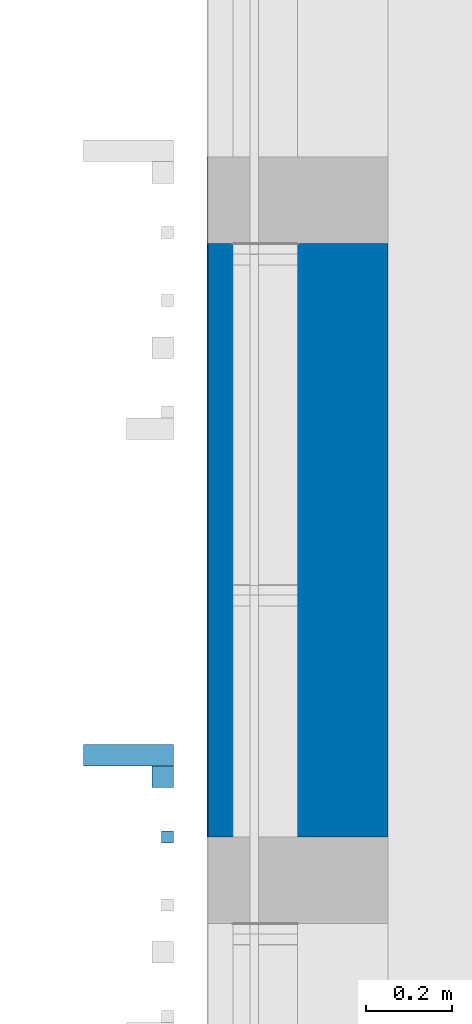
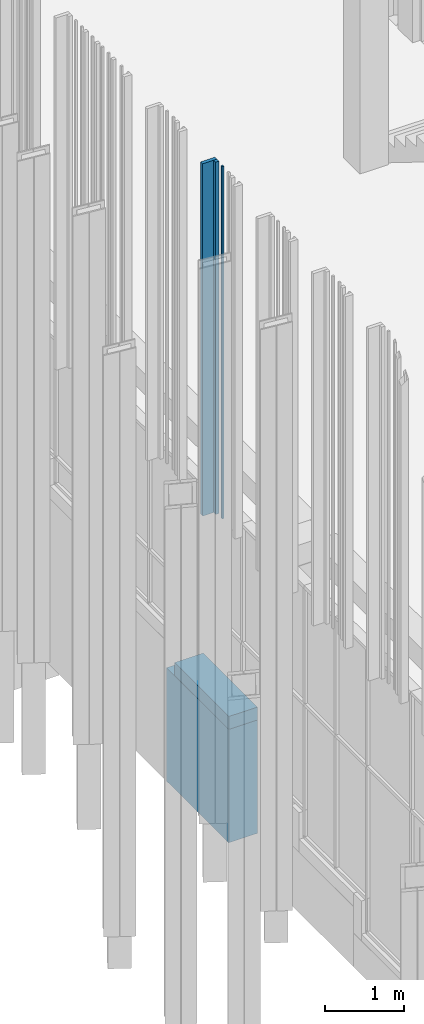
# One storey, part 110 of 390: 5 walls.
"""IFC2X3 building model written with IfcOpenShell, lengths in millimetres."""

from ifc_helpers import new_model, entity, si_unit, converted_unit, derived_unit, money_unit, direction, frame, origin_with_axes, place, context, subcontext, project, spatial, faceted_brep, material, material_list, type_object, element, save


model = new_model("IFC2X3")

# Units and contexts
model_context = context("Model", 3, precision=1e-05, world=origin_with_axes(), true_north=direction((0.0, 1.0)))
body_context = subcontext(model_context, "Body", "Model", "MODEL_VIEW")
ifc_project = project(units=[si_unit("LENGTHUNIT", "METRE", prefix="MILLI"), si_unit("AREAUNIT", "SQUARE_METRE"), si_unit("VOLUMEUNIT", "CUBIC_METRE"), converted_unit("PLANEANGLEUNIT", "DEGREE", entity("IfcPlaneAngleMeasure", 0.0174532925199), si_unit("PLANEANGLEUNIT", "RADIAN"), dimensions=[0, 0, 0, 0, 0, 0, 0]), si_unit("SOLIDANGLEUNIT", "STERADIAN"), money_unit("EUR"), converted_unit("TIMEUNIT", "Year", entity("IfcTimeMeasure", 31556926.0), si_unit("TIMEUNIT", "SECOND"), dimensions=[0, 0, 1, 0, 0, 0, 0]), si_unit("MASSUNIT", "GRAM", prefix="KILO"), si_unit("THERMODYNAMICTEMPERATUREUNIT", "DEGREE_CELSIUS"), si_unit("LUMINOUSINTENSITYUNIT", "LUMEN"), si_unit("ENERGYUNIT", "JOULE", prefix="MEGA"), derived_unit("THERMALCONDUCTANCEUNIT", [(si_unit("POWERUNIT", "WATT"), 1), (si_unit("LENGTHUNIT", "METRE"), -1), (si_unit("THERMODYNAMICTEMPERATUREUNIT", "KELVIN"), -1)]), derived_unit("SPECIFICHEATCAPACITYUNIT", [(si_unit("ENERGYUNIT", "JOULE"), 1), (si_unit("MASSUNIT", "GRAM", prefix="KILO"), -1), (si_unit("THERMODYNAMICTEMPERATUREUNIT", "KELVIN"), -1)]), derived_unit("MASSDENSITYUNIT", [(si_unit("MASSUNIT", "GRAM", prefix="KILO"), 1), (si_unit("VOLUMEUNIT", "CUBIC_METRE"), -1)])], contexts=[model_context])

# Site, building, storey
site_placement = place(None, origin_with_axes())
site = spatial("IfcSite", under=ifc_project, at=site_placement, Name="Site", CompositionType="ELEMENT")
building_placement = place(site_placement, origin_with_axes())
building = spatial("IfcBuilding", under=site, at=building_placement, Name="Building", CompositionType="ELEMENT")
storey_placement = place(building_placement, origin_with_axes())
storey = spatial("IfcBuildingStorey", under=building, at=storey_placement, Name="1 korrus", CompositionType="ELEMENT", Elevation=0.0)

# Walls
ifc_material_1 = material(Name="Membraan - Veekindel")
ifc_material_2 = material(Name="Soojustus - Plastik Kõva")
ifc_material_3 = material(Name="Raudbetoon - Konstruktsioon")
ifc_material_4 = material(Name="Krohv - Lubjakivi")
ifc_material_list_1 = material_list([ifc_material_1, ifc_material_1, ifc_material_2, ifc_material_2, ifc_material_3, ifc_material_4])
wall_type_1 = type_object("IfcWallType", Name="VS-03", PredefinedType="NOTDEFINED")
wall_1_placement = place(storey_placement, frame((122909.999995, 53362.5685601, -620.0), z_axis=(0.0, 0.0, 1.0), x_axis=(0.0, 1.0, 0.0)))
element("IfcWall", 1, at=wall_1_placement, inside=storey, type_object=wall_type_1, material=ifc_material_list_1, Name="VS-03", context=body_context, shape_type="Brep", body=[
    faceted_brep([(1574.99999999, 420.000000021, 0.0), (1574.99999999, 415.000000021, 0.0), (-5.563549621e-09, 415.0, 0.0), (-5.62749846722e-09, 420.0, 0.0), (1574.99999999, 420.000000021, 1750.0), (1574.99999999, 415.000000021, 1750.0), (-5.563549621e-09, 415.0, 1750.0), (-5.62749846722e-09, 420.0, 1750.0)], [[[0, 1, 2, 3]], [[0, 4, 5, 1]], [[1, 5, 6, 2]], [[3, 2, 6, 7]], [[4, 0, 3, 7]], [[5, 4, 7, 6]]]),
    faceted_brep([(1574.99999999, 415.000000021, 0.0), (1574.99999999, 410.000000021, 0.0), (-5.49249534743e-09, 410.0, 0.0), (-5.563549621e-09, 415.0, 0.0), (1574.99999999, 415.000000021, 1750.0), (1574.99999999, 410.000000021, 1750.0), (-5.49249534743e-09, 410.0, 1750.0), (-5.563549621e-09, 415.0, 1750.0)], [[[0, 1, 2, 3]], [[0, 4, 5, 1]], [[1, 5, 6, 2]], [[3, 2, 6, 7]], [[4, 0, 3, 7]], [[5, 4, 7, 6]]]),
    faceted_brep([(1574.99999999, 410.000000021, 0.0), (1575.0, 360.000000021, 0.0), (-4.82458517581e-09, 360.0, 0.0), (-5.49249534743e-09, 410.0, 0.0), (1574.99999999, 410.000000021, 1750.0), (1575.0, 360.000000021, 1750.0), (-4.82458517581e-09, 360.0, 1750.0), (-5.49249534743e-09, 410.0, 1750.0)], [[[0, 1, 2, 3]], [[0, 4, 5, 1]], [[1, 5, 6, 2]], [[3, 2, 6, 7]], [[4, 0, 3, 7]], [[5, 4, 7, 6]]]),
    faceted_brep([(1575.0, 360.000000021, 0.0), (1575.0, 210.000000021, 0.0), (-2.81374923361e-09, 210.0, 0.0), (-4.82458517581e-09, 360.0, 0.0), (1575.0, 360.000000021, 1750.0), (1575.0, 210.000000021, 1750.0), (-2.81374923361e-09, 210.0, 1750.0), (-4.82458517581e-09, 360.0, 1750.0)], [[[0, 1, 2, 3]], [[0, 4, 5, 1]], [[1, 5, 6, 2]], [[3, 2, 6, 7]], [[4, 0, 3, 7]], [[5, 4, 7, 6]]]),
    faceted_brep([(1575.0, 210.000000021, 0.0), (1575.0, 10.0000000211, 0.0), (-1.35003119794e-10, 10.0, 0.0), (-2.81374923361e-09, 210.0, 0.0), (1575.0, 210.000000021, 1750.0), (1575.0, 10.0000000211, 1750.0), (-1.35003119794e-10, 10.0, 1750.0), (-2.81374923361e-09, 210.0, 1750.0)], [[[0, 1, 2, 3]], [[0, 4, 5, 1]], [[1, 5, 6, 2]], [[3, 2, 6, 7]], [[4, 0, 3, 7]], [[5, 4, 7, 6]]]),
    faceted_brep([(1575.0, 10.0000000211, 0.0), (1575.0, 2.11173301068e-08, 0.0), (0.0, 0.0, 0.0), (-1.35003119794e-10, 10.0, 0.0), (1575.0, 10.0000000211, 1750.0), (1575.0, 2.11173301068e-08, 1750.0), (0.0, 0.0, 1750.0), (-1.35003119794e-10, 10.0, 1750.0)], [[[0, 1, 2, 3]], [[0, 4, 5, 1]], [[1, 5, 6, 2]], [[3, 2, 6, 7]], [[4, 0, 3, 7]], [[5, 4, 7, 6]]]),
])
ifc_material_5 = material(Name="Site specified")
wall_type_2 = type_object("IfcWallType", Name="Puitfassaadi ribistik", PredefinedType="NOTDEFINED")
wall_2_placement = place(storey_placement, frame((122308.499997, 53552.0000095, 4424.99966101), z_axis=(0.0, 0.0, 1.0), x_axis=(0.0, 1.0, 0.0)))
element("IfcWall", 2, at=wall_2_placement, inside=storey, type_object=wall_type_2, material=ifc_material_5, Name="Site specified", context=body_context, shape_type="Brep", body=[
    faceted_brep([(25.0, 104.5, 5440.00033899), (25.0, 104.5, 0.0), (-25.0, 104.5, 0.0), (-25.0, 104.5, 5440.00033899), (25.0, -104.5, 5440.00033899), (25.0, -104.5, 0.0), (-25.0, -104.5, 0.0), (-25.0, -104.5, 5440.00033899)], [[[0, 1, 2, 3]], [[4, 5, 1, 0]], [[2, 1, 5, 6]], [[3, 2, 6, 7]], [[4, 0, 3, 7]], [[7, 6, 5, 4]]]),
])
wall_3_placement = place(storey_placement, frame((122398.999997, 53363.0000095, 4424.99966101), z_axis=(0.0, 0.0, 1.0), x_axis=(0.0, 1.0, 0.0)))
element("IfcWall", 3, at=wall_3_placement, inside=storey, type_object=wall_type_2, material=ifc_material_5, Name="Site specified", context=body_context, shape_type="Brep", body=[
    faceted_brep([(14.0, 14.0, 5440.00033899), (14.0, 14.0, 0.0), (-14.0, 14.0, 0.0), (-14.0, 14.0, 5440.00033899), (14.0, -14.0, 5440.00033899), (14.0, -14.0, 0.0), (-14.0, -14.0, 0.0), (-14.0, -14.0, 5440.00033899)], [[[0, 1, 2, 3]], [[4, 5, 1, 0]], [[2, 1, 5, 6]], [[3, 2, 6, 7]], [[4, 0, 3, 7]], [[7, 6, 5, 4]]]),
])
wall_4_placement = place(storey_placement, frame((122387.999997, 53502.0000095, 4424.99966101), z_axis=(0.0, 0.0, 1.0), x_axis=(0.0, 1.0, 0.0)))
element("IfcWall", 4, at=wall_4_placement, inside=storey, type_object=wall_type_2, material=ifc_material_5, Name="Site specified", context=body_context, shape_type="Brep", body=[
    faceted_brep([(25.0, 25.0, 5440.00033899), (25.0, 25.0, 0.0), (-25.0, 25.0, 0.0), (-25.0, 25.0, 5440.00033899), (25.0, -25.0, 5440.00033899), (25.0, -25.0, 0.0), (-25.0, -25.0, 0.0), (-25.0, -25.0, 5440.00033899)], [[[0, 1, 2, 3]], [[4, 5, 1, 0]], [[2, 1, 5, 6]], [[3, 2, 6, 7]], [[4, 0, 3, 7]], [[7, 6, 5, 4]]]),
])
ifc_material_6 = material(Name="Plaat - Sein")
ifc_material_list_2 = material_list([ifc_material_6, ifc_material_2, ifc_material_2, ifc_material_3, ifc_material_4])
wall_type_3 = type_object("IfcWallType", Name="VS-05", PredefinedType="NOTDEFINED")
wall_5_placement = place(storey_placement, frame((122909.999995, 53362.5685601, 1130.0), z_axis=(0.0, 0.0, 1.0), x_axis=(0.0, 1.0, 0.0)))
element("IfcWall", 5, at=wall_5_placement, inside=storey, type_object=wall_type_3, material=ifc_material_list_2, Name="VS-05", context=body_context, shape_type="Brep", body=[
    faceted_brep([(1374.99999999, 418.000000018, 0.0), (1374.99999999, 410.000000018, 0.0), (-5.49249534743e-09, 410.0, 0.0), (-5.59907675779e-09, 418.0, 0.0), (1374.99999999, 418.000000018, 200.0), (1374.99999999, 410.000000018, 200.0), (-5.49249534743e-09, 410.0, 200.0), (-5.59907675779e-09, 418.0, 200.0)], [[[0, 1, 2, 3]], [[0, 4, 5, 1]], [[1, 5, 6, 2]], [[3, 2, 6, 7]], [[4, 0, 3, 7]], [[5, 4, 7, 6]]]),
    faceted_brep([(1374.99999999, 410.000000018, 0.0), (1375.0, 360.000000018, 0.0), (-4.82458517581e-09, 360.0, 0.0), (-5.49249534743e-09, 410.0, 0.0), (1374.99999999, 410.000000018, 200.0), (1375.0, 360.000000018, 200.0), (-4.82458517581e-09, 360.0, 200.0), (-5.49249534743e-09, 410.0, 200.0)], [[[0, 1, 2, 3]], [[0, 4, 5, 1]], [[1, 5, 6, 2]], [[3, 2, 6, 7]], [[4, 0, 3, 7]], [[5, 4, 7, 6]]]),
    faceted_brep([(1375.0, 360.000000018, 0.0), (1375.0, 210.000000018, 0.0), (-2.81374923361e-09, 210.0, 0.0), (-4.82458517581e-09, 360.0, 0.0), (1375.0, 360.000000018, 200.0), (1375.0, 210.000000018, 200.0), (-2.81374923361e-09, 210.0, 200.0), (-4.82458517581e-09, 360.0, 200.0)], [[[0, 1, 2, 3]], [[0, 4, 5, 1]], [[1, 5, 6, 2]], [[3, 2, 6, 7]], [[4, 0, 3, 7]], [[5, 4, 7, 6]]]),
    faceted_brep([(1375.0, 210.000000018, 0.0), (1375.0, 10.0000000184, 0.0), (-1.35003119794e-10, 10.0, 0.0), (-2.81374923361e-09, 210.0, 0.0), (1375.0, 210.000000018, 200.0), (1375.0, 10.0000000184, 200.0), (-1.35003119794e-10, 10.0, 200.0), (-2.81374923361e-09, 210.0, 200.0)], [[[0, 1, 2, 3]], [[0, 4, 5, 1]], [[1, 5, 6, 2]], [[3, 2, 6, 7]], [[4, 0, 3, 7]], [[5, 4, 7, 6]]]),
    faceted_brep([(1375.0, 10.0000000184, 0.0), (1375.0, 1.84314785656e-08, 0.0), (0.0, 0.0, 0.0), (-1.35003119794e-10, 10.0, 0.0), (1375.0, 10.0000000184, 200.0), (1375.0, 1.84314785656e-08, 200.0), (0.0, 0.0, 200.0), (-1.35003119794e-10, 10.0, 200.0)], [[[0, 1, 2, 3]], [[0, 4, 5, 1]], [[1, 5, 6, 2]], [[3, 2, 6, 7]], [[4, 0, 3, 7]], [[5, 4, 7, 6]]]),
])

save(model, "model.ifc")
